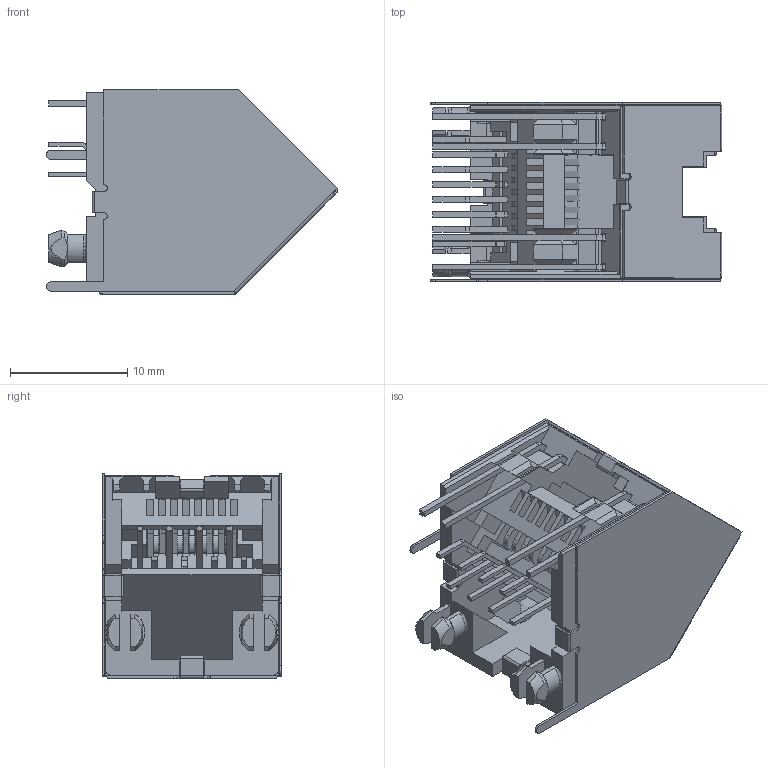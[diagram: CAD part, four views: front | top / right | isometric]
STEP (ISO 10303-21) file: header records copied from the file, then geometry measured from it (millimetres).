
FILE_DESCRIPTION((''),'2;1');
FILE_NAME('J045030256-G-Y','2023-03-20T10:09:16',('Administrator'),(''),'CREO PARAMETRIC BY PTC INC, 2019010','CREO PARAMETRIC BY PTC INC, 2019010','');
FILE_SCHEMA(('CONFIG_CONTROL_DESIGN'));
Length unit declared in the file: millimetre
Products named in the file (1): J045030256-G-Y
Bounding box: 24.87 x 15.3 x 17.46 mm (x, y, z)
Surface area: 4462.4 mm2 (no closed solid volume)
Topology: 0 solids, 17 shells, 553 faces, 1934 edges, 1333 vertices
Faces by surface type: plane 413, cylinder 118, cone 12, torus 6, bspline 4
Entity records: 20932 total; most frequent: CARTESIAN_POINT 4751, ORIENTED_EDGE 3213, DIRECTION 3116, EDGE_CURVE 1934, VECTOR 1562, LINE 1562, VERTEX_POINT 1333, AXIS2_PLACEMENT_3D 777
